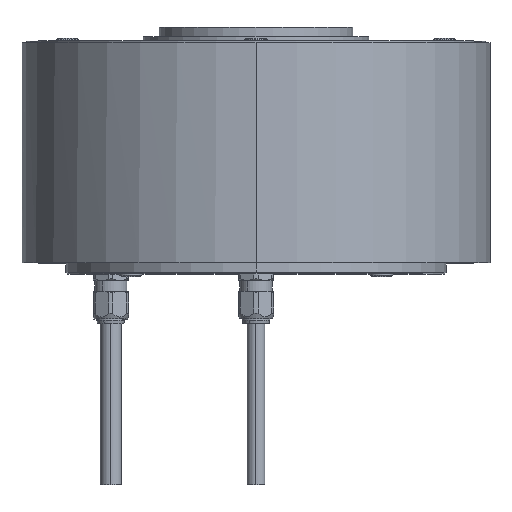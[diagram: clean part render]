
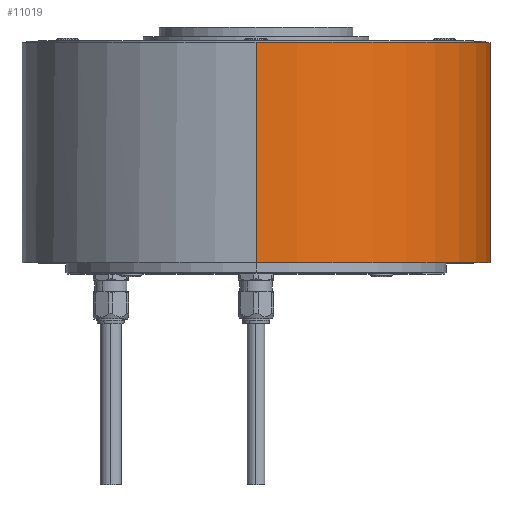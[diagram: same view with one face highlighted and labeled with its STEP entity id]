
A CAD part, top view. The second image highlights one B-rep face of the part: STEP entity #11019.
In plain terms, the highlighted cylindrical face has radius 72.5 mm (diameter 145 mm), a partial arc.
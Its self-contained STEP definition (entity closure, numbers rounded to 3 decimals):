
#85 = AXIS2_PLACEMENT_3D ( 'NONE', #12673, #7918, #11207 ) ;
#273 = CARTESIAN_POINT ( 'NONE',  ( 0., 0., 72.5 ) ) ;
#757 = ORIENTED_EDGE ( 'NONE', *, *, #12993, .T. ) ;
#1682 = DIRECTION ( 'NONE',  ( 0., -1., 0. ) ) ;
#1897 = ORIENTED_EDGE ( 'NONE', *, *, #16457, .F. ) ;
#2101 = AXIS2_PLACEMENT_3D ( 'NONE', #12668, #15692, #8095 ) ;
#3086 = CIRCLE ( 'NONE', #7125, 72.5 ) ;
#3442 = FACE_OUTER_BOUND ( 'NONE', #13533, .T. ) ;
#4421 = VECTOR ( 'NONE', #7577, 1000. ) ;
#4795 = VECTOR ( 'NONE', #10502, 1000. ) ;
#4852 = VERTEX_POINT ( 'NONE', #16665 ) ;
#5314 = CARTESIAN_POINT ( 'NONE',  ( 0., 71.2, 72.5 ) ) ;
#6781 = CIRCLE ( 'NONE', #2101, 72.5 ) ;
#7125 = AXIS2_PLACEMENT_3D ( 'NONE', #15030, #1682, #9184 ) ;
#7577 = DIRECTION ( 'NONE',  ( 0., -1., 0. ) ) ;
#7918 = DIRECTION ( 'NONE',  ( 0., -1., 0. ) ) ;
#8095 = DIRECTION ( 'NONE',  ( 0., 0., -1. ) ) ;
#9184 = DIRECTION ( 'NONE',  ( 0., 0., -1. ) ) ;
#9373 = CYLINDRICAL_SURFACE ( 'NONE', #85, 72.5 ) ;
#9572 = VERTEX_POINT ( 'NONE', #5314 ) ;
#10157 = EDGE_CURVE ( 'NONE', #17975, #13972, #15177, .T. ) ;
#10502 = DIRECTION ( 'NONE',  ( 0., -1., 0. ) ) ;
#10659 = ORIENTED_EDGE ( 'NONE', *, *, #10157, .F. ) ;
#11019 = ADVANCED_FACE ( 'NONE', ( #3442 ), #9373, .T. ) ;
#11207 = DIRECTION ( 'NONE',  ( 0., 0., -1. ) ) ;
#12668 = CARTESIAN_POINT ( 'NONE',  ( 0., 71.2, 0. ) ) ;
#12673 = CARTESIAN_POINT ( 'NONE',  ( 0., 0., 0. ) ) ;
#12993 = EDGE_CURVE ( 'NONE', #9572, #4852, #17819, .T. ) ;
#13533 = EDGE_LOOP ( 'NONE', ( #18762, #757, #1897, #10659 ) ) ;
#13972 = VERTEX_POINT ( 'NONE', #18080 ) ;
#14863 = CARTESIAN_POINT ( 'NONE',  ( 0., 71.2, -72.5 ) ) ;
#14982 = CARTESIAN_POINT ( 'NONE',  ( 0., 0., -72.5 ) ) ;
#15030 = CARTESIAN_POINT ( 'NONE',  ( 0., 3., 0. ) ) ;
#15177 = LINE ( 'NONE', #14982, #4421 ) ;
#15554 = EDGE_CURVE ( 'NONE', #17975, #9572, #6781, .T. ) ;
#15692 = DIRECTION ( 'NONE',  ( 0., -1., 0. ) ) ;
#16457 = EDGE_CURVE ( 'NONE', #13972, #4852, #3086, .T. ) ;
#16665 = CARTESIAN_POINT ( 'NONE',  ( 0., 3., 72.5 ) ) ;
#17819 = LINE ( 'NONE', #273, #4795 ) ;
#17975 = VERTEX_POINT ( 'NONE', #14863 ) ;
#18080 = CARTESIAN_POINT ( 'NONE',  ( 0., 3., -72.5 ) ) ;
#18762 = ORIENTED_EDGE ( 'NONE', *, *, #15554, .T. ) ;
